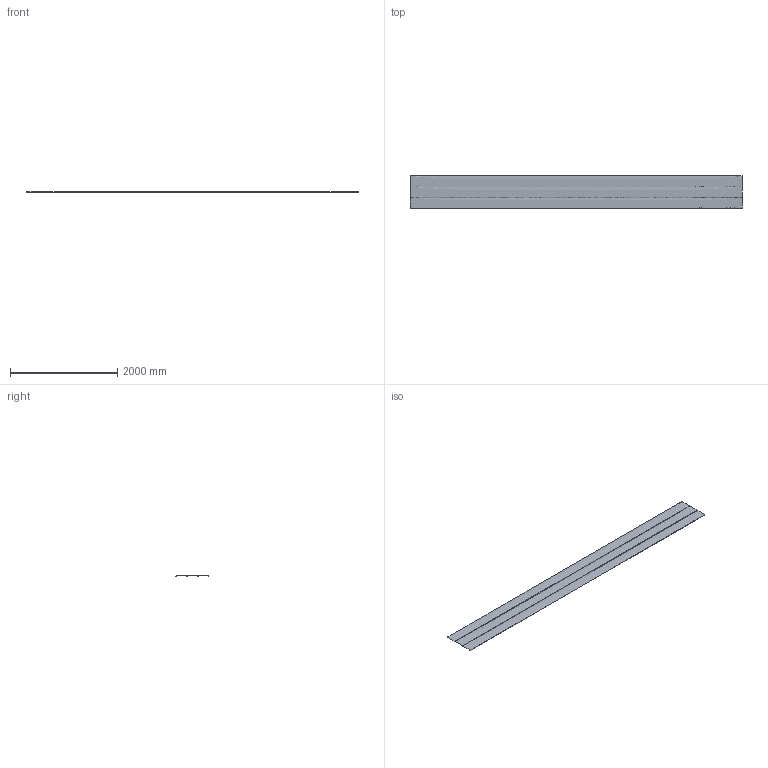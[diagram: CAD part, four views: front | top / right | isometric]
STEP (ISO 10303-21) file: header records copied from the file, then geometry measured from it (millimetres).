
FILE_DESCRIPTION(/* description */ (''),/* implementation_level */ '2;1');
FILE_NAME(/* name */ 'PREFA_~1',/* time_stamp */ '2020-07-21T14:55:48+02:00',/* author */ (''),/* organization */ (''),/* preprocessor_version */ 'ST-DEVELOPER v15',/* originating_system */ '',/* authorisation */ '');
FILE_SCHEMA (('AUTOMOTIVE_DESIGN'));
Length unit declared in the file: millimetre
Products named in the file (1): Document
Bounding box: 6200 x 608.6 x 6.5 mm (x, y, z)
Surface area: 4049698.4 mm2 (no closed solid volume)
Topology: 0 solids, 3 shells, 3 faces, 12 edges, 12 vertices
Faces by surface type: bspline 3
Entity records: 312 total; most frequent: CARTESIAN_POINT 230, ORIENTED_EDGE 12, EDGE_CURVE 12, VERTEX_POINT 12, B_SPLINE_CURVE_WITH_KNOTS 6, DIRECTION 4, PRESENTATION_LAYER_ASSIGNMENT 3, SHELL_BASED_SURFACE_MODEL 3
